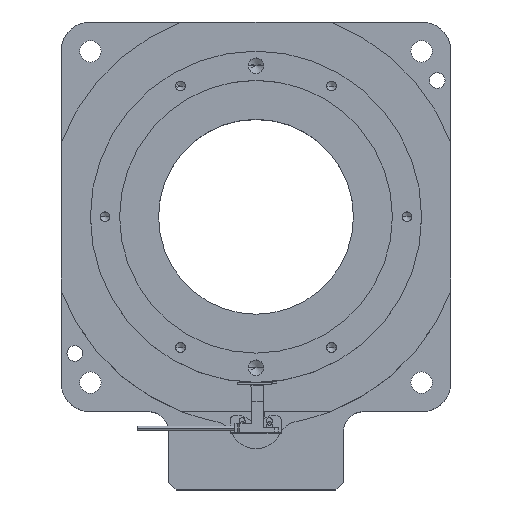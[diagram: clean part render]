
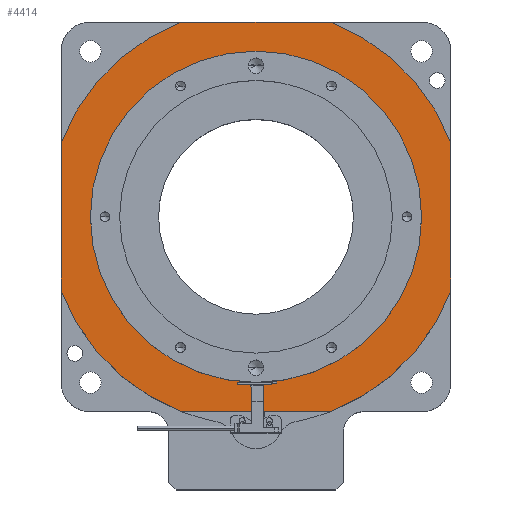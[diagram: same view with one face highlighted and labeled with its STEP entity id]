
A CAD part, top view. The second image highlights one B-rep face of the part: STEP entity #4414.
In plain terms, the highlighted planar face has unit normal (0, 0, 1).
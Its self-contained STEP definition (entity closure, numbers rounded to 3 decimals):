
#51 = EDGE_LOOP ( 'NONE', ( #2273, #810, #5919, #7020, #2968, #5104, #2565, #2893 ) ) ;
#136 = CIRCLE ( 'NONE', #8066, 85. ) ;
#140 = CARTESIAN_POINT ( 'NONE',  ( 87.576, -21.614, 37.6 ) ) ;
#151 = VERTEX_POINT ( 'NONE', #6584 ) ;
#247 = AXIS2_PLACEMENT_3D ( 'NONE', #576, #3066, #2578 ) ;
#269 = CARTESIAN_POINT ( 'NONE',  ( -97.424, 116.452, 37.6 ) ) ;
#319 = DIRECTION ( 'NONE',  ( 0., 0., 1. ) ) ;
#414 = DIRECTION ( 'NONE',  ( 1., 0., 0. ) ) ;
#451 = EDGE_CURVE ( 'NONE', #1480, #7763, #4512, .T. ) ;
#469 = CARTESIAN_POINT ( 'NONE',  ( -12.424, 16.452, 37.6 ) ) ;
#576 = CARTESIAN_POINT ( 'NONE',  ( -12.424, 16.452, 37.6 ) ) ;
#654 = CIRCLE ( 'NONE', #6650, 85. ) ;
#774 = VECTOR ( 'NONE', #5903, 1000. ) ;
#810 = ORIENTED_EDGE ( 'NONE', *, *, #6246, .T. ) ;
#1010 = AXIS2_PLACEMENT_3D ( 'NONE', #4130, #1039, #6017 ) ;
#1039 = DIRECTION ( 'NONE',  ( 0., 0., 1. ) ) ;
#1127 = DIRECTION ( 'NONE',  ( 1., 0., 0. ) ) ;
#1221 = AXIS2_PLACEMENT_3D ( 'NONE', #7978, #6265, #1127 ) ;
#1347 = CARTESIAN_POINT ( 'NONE',  ( -12.424, 16.452, 37.6 ) ) ;
#1360 = EDGE_CURVE ( 'NONE', #5649, #6114, #654, .T. ) ;
#1450 = VECTOR ( 'NONE', #4984, 1000. ) ;
#1480 = VERTEX_POINT ( 'NONE', #4413 ) ;
#1493 = LINE ( 'NONE', #6995, #6475 ) ;
#1909 = CIRCLE ( 'NONE', #6449, 107. ) ;
#1945 = LINE ( 'NONE', #6949, #1450 ) ;
#1974 = CARTESIAN_POINT ( 'NONE',  ( -112.424, -21.614, 37.6 ) ) ;
#2273 = ORIENTED_EDGE ( 'NONE', *, *, #6000, .F. ) ;
#2428 = EDGE_CURVE ( 'NONE', #6862, #5121, #1909, .T. ) ;
#2565 = ORIENTED_EDGE ( 'NONE', *, *, #7023, .T. ) ;
#2578 = DIRECTION ( 'NONE',  ( 1., 0., 0. ) ) ;
#2855 = CARTESIAN_POINT ( 'NONE',  ( -12.424, 16.452, 37.6 ) ) ;
#2893 = ORIENTED_EDGE ( 'NONE', *, *, #2428, .T. ) ;
#2929 = ORIENTED_EDGE ( 'NONE', *, *, #6582, .F. ) ;
#2968 = ORIENTED_EDGE ( 'NONE', *, *, #3064, .T. ) ;
#2971 = CIRCLE ( 'NONE', #1010, 107. ) ;
#3064 = EDGE_CURVE ( 'NONE', #7763, #151, #5844, .T. ) ;
#3066 = DIRECTION ( 'NONE',  ( 0., 0., 1. ) ) ;
#3355 = CARTESIAN_POINT ( 'NONE',  ( -97.424, 16.452, 37.6 ) ) ;
#3456 = LINE ( 'NONE', #5328, #774 ) ;
#3476 = AXIS2_PLACEMENT_3D ( 'NONE', #2855, #319, #5905 ) ;
#3530 = DIRECTION ( 'NONE',  ( 1., 0., 0. ) ) ;
#3731 = FACE_BOUND ( 'NONE', #6879, .T. ) ;
#3773 = FACE_OUTER_BOUND ( 'NONE', #51, .T. ) ;
#4130 = CARTESIAN_POINT ( 'NONE',  ( -12.424, 16.452, 37.6 ) ) ;
#4150 = ORIENTED_EDGE ( 'NONE', *, *, #1360, .F. ) ;
#4413 = CARTESIAN_POINT ( 'NONE',  ( 87.576, 54.518, 37.6 ) ) ;
#4414 = ADVANCED_FACE ( 'NONE', ( #3731, #3773 ), #6716, .T. ) ;
#4512 = CIRCLE ( 'NONE', #3476, 107. ) ;
#4809 = CARTESIAN_POINT ( 'NONE',  ( -12.424, 16.452, 37.6 ) ) ;
#4848 = DIRECTION ( 'NONE',  ( 0., 0., 1. ) ) ;
#4959 = VERTEX_POINT ( 'NONE', #5265 ) ;
#4966 = VERTEX_POINT ( 'NONE', #140 ) ;
#4984 = DIRECTION ( 'NONE',  ( 0., 1., 0. ) ) ;
#5104 = ORIENTED_EDGE ( 'NONE', *, *, #6752, .T. ) ;
#5121 = VERTEX_POINT ( 'NONE', #5590 ) ;
#5208 = DIRECTION ( 'NONE',  ( 0., 0., 1. ) ) ;
#5265 = CARTESIAN_POINT ( 'NONE',  ( 25.641, -83.548, 37.6 ) ) ;
#5328 = CARTESIAN_POINT ( 'NONE',  ( -112.424, 101.452, 37.6 ) ) ;
#5341 = VECTOR ( 'NONE', #6090, 1000. ) ;
#5422 = CARTESIAN_POINT ( 'NONE',  ( -112.424, 54.518, 37.6 ) ) ;
#5590 = CARTESIAN_POINT ( 'NONE',  ( -50.49, -83.548, 37.6 ) ) ;
#5649 = VERTEX_POINT ( 'NONE', #6430 ) ;
#5844 = LINE ( 'NONE', #269, #5341 ) ;
#5903 = DIRECTION ( 'NONE',  ( 0., -1., 0. ) ) ;
#5905 = DIRECTION ( 'NONE',  ( 1., 0., 0. ) ) ;
#5919 = ORIENTED_EDGE ( 'NONE', *, *, #7588, .T. ) ;
#6000 = EDGE_CURVE ( 'NONE', #4959, #5121, #1493, .T. ) ;
#6017 = DIRECTION ( 'NONE',  ( 1., 0., 0. ) ) ;
#6090 = DIRECTION ( 'NONE',  ( -1., 0., 0. ) ) ;
#6114 = VERTEX_POINT ( 'NONE', #3355 ) ;
#6246 = EDGE_CURVE ( 'NONE', #4959, #4966, #2971, .T. ) ;
#6265 = DIRECTION ( 'NONE',  ( 0., 0., 1. ) ) ;
#6430 = CARTESIAN_POINT ( 'NONE',  ( 72.576, 16.452, 37.6 ) ) ;
#6449 = AXIS2_PLACEMENT_3D ( 'NONE', #1347, #5208, #7700 ) ;
#6475 = VECTOR ( 'NONE', #6545, 1000. ) ;
#6545 = DIRECTION ( 'NONE',  ( -1., 0., 0. ) ) ;
#6546 = VERTEX_POINT ( 'NONE', #5422 ) ;
#6582 = EDGE_CURVE ( 'NONE', #6114, #5649, #136, .T. ) ;
#6584 = CARTESIAN_POINT ( 'NONE',  ( -50.49, 116.452, 37.6 ) ) ;
#6631 = DIRECTION ( 'NONE',  ( 0., 0., 1. ) ) ;
#6650 = AXIS2_PLACEMENT_3D ( 'NONE', #469, #6631, #3530 ) ;
#6716 = PLANE ( 'NONE',  #1221 ) ;
#6752 = EDGE_CURVE ( 'NONE', #151, #6546, #8072, .T. ) ;
#6862 = VERTEX_POINT ( 'NONE', #1974 ) ;
#6879 = EDGE_LOOP ( 'NONE', ( #4150, #2929 ) ) ;
#6949 = CARTESIAN_POINT ( 'NONE',  ( 87.576, 101.452, 37.6 ) ) ;
#6995 = CARTESIAN_POINT ( 'NONE',  ( -76.276, -83.548, 37.6 ) ) ;
#7020 = ORIENTED_EDGE ( 'NONE', *, *, #451, .T. ) ;
#7023 = EDGE_CURVE ( 'NONE', #6546, #6862, #3456, .T. ) ;
#7149 = CARTESIAN_POINT ( 'NONE',  ( 25.641, 116.452, 37.6 ) ) ;
#7588 = EDGE_CURVE ( 'NONE', #4966, #1480, #1945, .T. ) ;
#7700 = DIRECTION ( 'NONE',  ( 1., 0., 0. ) ) ;
#7763 = VERTEX_POINT ( 'NONE', #7149 ) ;
#7978 = CARTESIAN_POINT ( 'NONE',  ( -12.424, -3.548, 37.6 ) ) ;
#8066 = AXIS2_PLACEMENT_3D ( 'NONE', #4809, #4848, #414 ) ;
#8072 = CIRCLE ( 'NONE', #247, 107. ) ;
